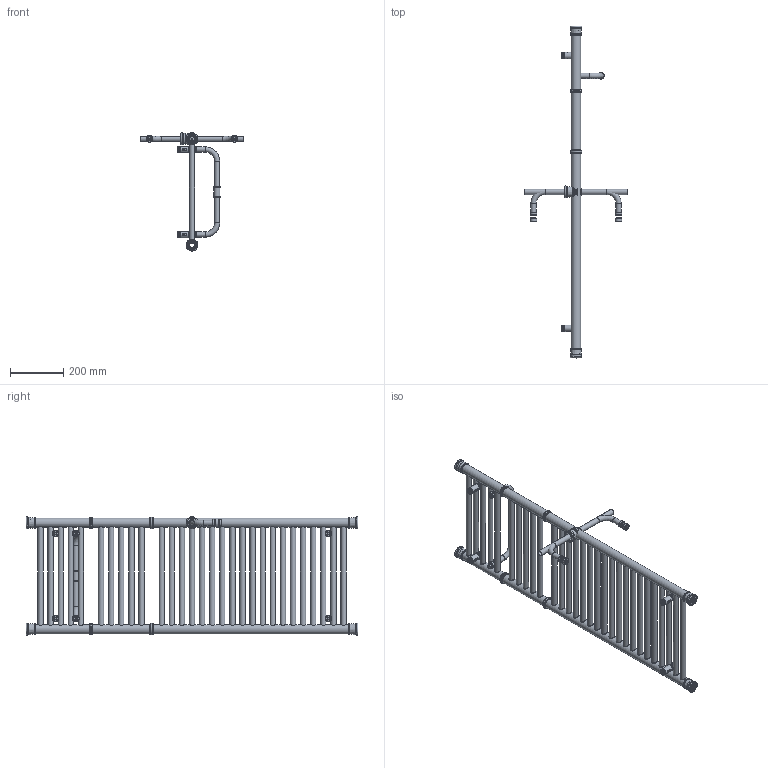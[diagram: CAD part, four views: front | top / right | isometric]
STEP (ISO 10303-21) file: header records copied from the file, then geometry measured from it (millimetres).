
FILE_DESCRIPTION( ( 'Unknown' ), '1' );
FILE_NAME( 'D:/Alplast sp. j/Witryna zespoBu - Projekty/Archiwum/Grzejniki Archiwum/Projekty/DESIGN PROGRAM/RETRO/Retro A5-400.stp', 'Unknown', ( 'Unknown' ), ( 'Unknown' ), 'PSStep 10.1', 'Unknown', ' ' );
FILE_SCHEMA( ( 'AUTOMOTIVE_DESIGN { 1 0 10303 214 1 1 1 1 }' ) );
Length unit declared in the file: millimetre
Products named in the file (60): katurek z wkrêtem do mocowania do  sciany; Assem1; suszarka Retro 400; mocowanie do œciany; Katurek fi 25 v4 ; wkrêt do katurka fi 25 v4; tulejka do mocowania grzejnika v3; mocowanie do grzejnika v3; zaœlepka do mocowania do œciany; detal-v3. par; element do suszarki do mocowania; element do suszarki do mocowania-oa0; tulejka do suszarki ; tulejka do suszarki -oa1; element do suszarki do mocowania ty³; element do suszarki do mocowania ty³-oa2; suszarka 400; kolektor Retro A5; kolektor Retro A5-oa3; Kana³ Prosty Retro 400; Kana³ Prosty Retro 400-oa4; Kana³ Prosty Retro 400-oa5; Kana³ Prosty Retro 400-oa6; Kana³ Prosty Retro 400-oa7; Kana³ Prosty Retro 400-oa8; Kana³ Prosty Retro 400-oa9; Kana³ Prosty Retro 400-oa10; Kana³ Prosty Retro 400-oa11; Kana³ Prosty Retro 400-oa12; Kana³ Prosty Retro 400-oa13; Kana³ Prosty Retro 400-oa14; Kana³ Prosty Retro 400-oa15; Kana³ Prosty Retro 400-oa16; Kana³ Prosty Retro 400-oa17; Kana³ Prosty Retro 400-oa18; Kana³ Prosty Retro 400-oa19; Kana³ Prosty Retro 400-oa20; Kana³ Prosty Retro 400-oa21; Kana³ Prosty Retro 400-oa22; Kana³ Prosty Retro 400-oa23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
Bounding box: 384 x 1248 x 444.92 mm (x, y, z)
Volume: 2661619.5 mm3; surface area: 4042482.2 mm2
Topology: 142 solids, 142 shells, 1144 faces, 2308 edges, 1482 vertices
Faces by surface type: cylinder 498, plane 342, torus 201, cone 84, bspline 12, sphere 7
Full cylindrical faces by diameter (mm): 4.917 x24, 5.9 x6, 6 x27, 6.3 x6, 6.4 x6, 15.5 x6, 17.5 x6, 17.6 x67, 18.631 x8, 20 x67, 20.3 x3, 20.5 x116, 20.6 x6, 21.15 x6, 21.9 x18, 22.8 x3, 24.5 x6, 25 x21, 25.25 x6, 25.3 x6, 32 x8, 32.4 x4, 35 x12, 35.3 x8, 35.5 x8, 39 x16, 41.15 x16
Entity records: 25062 total; most frequent: CARTESIAN_POINT 12732, DIRECTION 1718, ORIENTED_EDGE 990, EDGE_LOOP 972, AXIS2_PLACEMENT_3D 855, FACE_OUTER_BOUND 701, EDGE_CURVE 495, VERTEX_POINT 492
